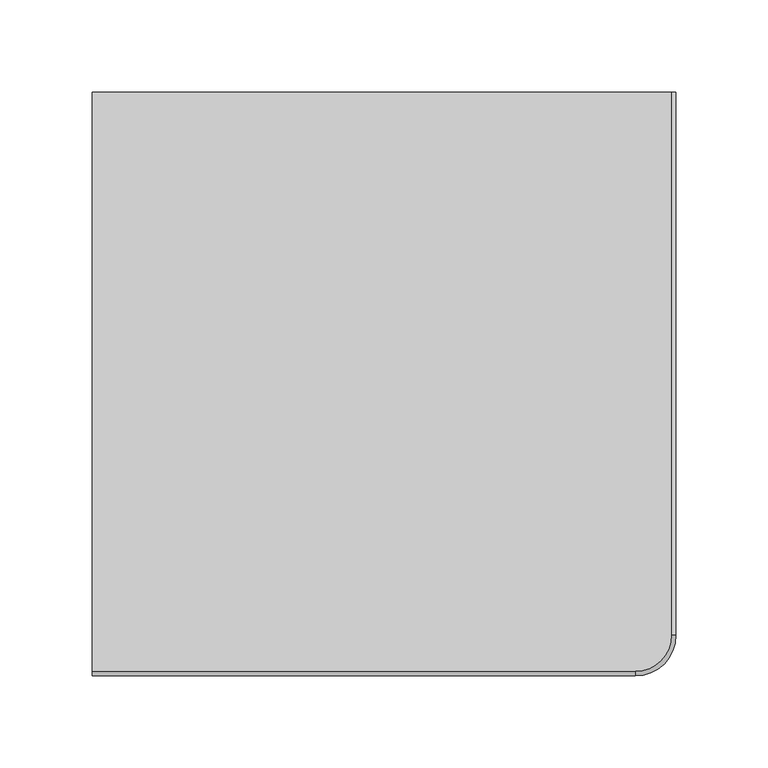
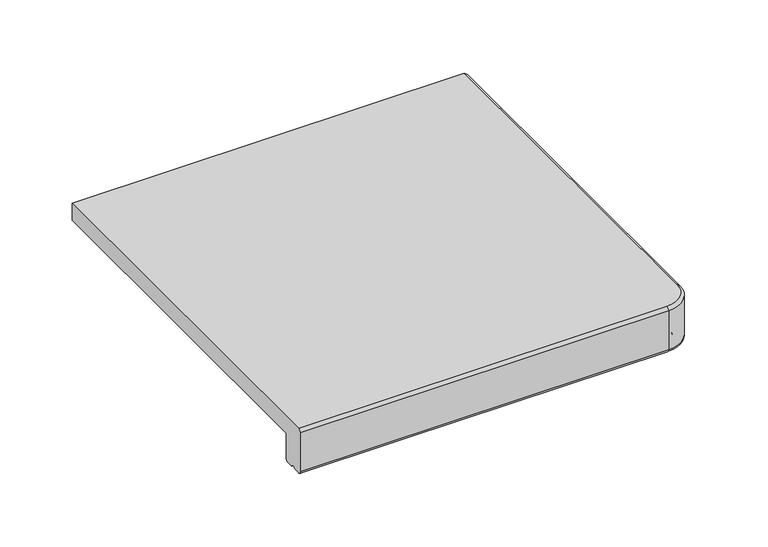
"""IFC4 building model written with IfcOpenShell, lengths in millimetres: proxy geometry, ROSA GRES_DL1 (corte) : Pieza DL1_Serena_Ocra_Anti-Slip."""

from ifc_helpers import new_model, si_unit, point, frame, origin, place, context, project, spatial, polyline, circle_curve, ellipse_curve, trimmed, source, transform, mapped, element, save
from ifc_brep_helpers import plane_surface, cylinder_surface, revolved_surface, advanced_brep


def generic_models_fd3dc37b(model_context):
    return source(origin(), model_context, "Body", "AdvancedBrep", [
        advanced_brep(
        [(0.0, 317.0, 38.0), (0.0, 317.0, 23.2451288), (0.0, 20.0, 23.2451288), (0.0, 20.0, 2.5), (0.0, 17.5, 0.0), (0.0, 11.8617862, 0.0), (0.0, 8.1382138, 0.0), (0.0, 2.5, 0.0), (0.0, 0.0, 2.5), (0.0, 0.0, 35.5), (0.0, 2.5, 38.0), (295.0, 2.5, 38.0), (314.5, 22.0, 38.0), (314.5, 317.0, 38.0), (295.0, 20.0, 2.5), (295.0, 20.0, 23.2451288), (295.0, 17.5, 0.0), (299.5, 22.0, 0.0), (299.5, 317.0, 0.0), (305.1382138, 317.0, 0.0), (305.1382138, 22.0, 0.0), (295.0, 11.8617862, 0.0), (295.0, 8.1382138, 0.0), (308.8617862, 22.0, 0.0), (308.8617862, 317.0, 0.0), (314.5, 317.0, 0.0), (314.5, 22.0, 0.0), (295.0, 2.5, 0.0), (295.0, 0.0, 2.5), (295.0, 0.0, 35.5), (297.0, 22.0, 2.5), (297.0, 22.0, 23.2451288), (317.0, 22.0, 2.5), (317.0, 22.0, 35.5), (317.0, 317.0, 35.5), (317.0, 317.0, 2.5), (297.0, 317.0, 2.5), (297.0, 317.0, 23.2451288)],
        [
            (0, 1),
            (1, 2),
            (2, 3),
            (3, 4, circle_curve(frame((0.0, 17.5, 2.5), z_axis=(-1.0, 0.0, 0.0), x_axis=(0.0, 1.0, 0.0)), 2.5)),
            (4, 5),
            (5, 6, circle_curve(frame((0.0, 10.0, 0.0), z_axis=(1.0, 0.0, 0.0), x_axis=(0.0, 1.0, 0.0)), 1.8617862)),
            (6, 7),
            (7, 8, circle_curve(frame((0.0, 2.5, 2.5), z_axis=(-1.0, 0.0, 0.0), x_axis=(0.0, 1.0, 0.0)), 2.5)),
            (8, 9),
            (9, 10),
            (10, 0),
            (10, 11),
            (11, 12, circle_curve(frame((295.0, 22.0, 38.0), z_axis=(0.0, 0.0, 1.0), x_axis=(0.0, -1.0, 0.0)), 19.5)),
            (12, 13),
            (13, 0),
            (14, 3),
            (2, 15),
            (15, 14),
            (14, 16, circle_curve(frame((295.0, 17.5, 2.5), z_axis=(-1.0, 0.0, 0.0), x_axis=(0.0, 1.0, 0.0)), 2.5)),
            (16, 4),
            (16, 17, circle_curve(frame((295.0, 22.0, 0.0), z_axis=(0.0, 0.0, 1.0), x_axis=(0.0, -1.0, 0.0)), 4.5)),
            (17, 18),
            (18, 19),
            (19, 20),
            (20, 21, circle_curve(frame((295.0, 22.0, 0.0), z_axis=(0.0, 0.0, -1.0), x_axis=(0.0, -1.0, 0.0)), 10.1382138)),
            (21, 5),
            (21, 22, circle_curve(frame((295.0, 10.0, 0.0), z_axis=(1.0, 0.0, 0.0), x_axis=(0.0, 1.0, 0.0)), 1.8617862)),
            (22, 6),
            (22, 23, circle_curve(frame((295.0, 22.0, 0.0), z_axis=(0.0, 0.0, 1.0), x_axis=(0.0, -1.0, 0.0)), 13.8617862)),
            (23, 24),
            (24, 25),
            (25, 26),
            (26, 27, circle_curve(frame((295.0, 22.0, 0.0), z_axis=(0.0, 0.0, -1.0), x_axis=(0.0, -1.0, 0.0)), 19.5)),
            (27, 7),
            (27, 28, circle_curve(frame((295.0, 2.5, 2.5), z_axis=(-1.0, 0.0, 0.0), x_axis=(0.0, 1.0, 0.0)), 2.5)),
            (28, 8),
            (28, 29),
            (29, 9),
            (30, 14, circle_curve(frame((295.0, 22.0, 2.5), z_axis=(0.0, 0.0, -1.0), x_axis=(0.0, -1.0, 0.0)), 2.0)),
            (15, 31, circle_curve(frame((295.0, 22.0, 23.2451288), z_axis=(0.0, 0.0, 1.0), x_axis=(0.0, -1.0, 0.0)), 2.0)),
            (31, 30),
            (30, 17, circle_curve(frame((299.5, 22.0, 2.5), z_axis=(0.0, -1.0, 0.0), x_axis=(-1.0, 0.0, 0.0)), 2.5)),
            (20, 23, circle_curve(frame((307.0, 22.0, 0.0), z_axis=(0.0, 1.0, 0.0), x_axis=(-1.0, 0.0, 0.0)), 1.8617862)),
            (26, 32, circle_curve(frame((314.5, 22.0, 2.5), z_axis=(0.0, -1.0, 0.0), x_axis=(-1.0, 0.0, 0.0)), 2.5)),
            (32, 28, circle_curve(frame((295.0, 22.0, 2.5), z_axis=(0.0, 0.0, -1.0), x_axis=(0.0, -1.0, 0.0)), 22.0)),
            (32, 33),
            (33, 29, circle_curve(frame((295.0, 22.0, 35.5), z_axis=(0.0, 0.0, -1.0), x_axis=(0.0, -1.0, 0.0)), 22.0)),
            (13, 34),
            (34, 35),
            (35, 25, circle_curve(frame((314.5, 317.0, 2.5), z_axis=(0.0, 1.0, 0.0), x_axis=(-1.0, 0.0, 0.0)), 2.5)),
            (24, 19, circle_curve(frame((307.0, 317.0, 0.0), z_axis=(0.0, -1.0, 0.0), x_axis=(-1.0, 0.0, 0.0)), 1.8617862)),
            (18, 36, circle_curve(frame((299.5, 317.0, 2.5), z_axis=(0.0, 1.0, 0.0), x_axis=(-1.0, 0.0, 0.0)), 2.5)),
            (36, 37),
            (37, 1),
            (36, 30),
            (31, 37),
            (35, 32),
            (34, 33),
            (29, 11),
            (33, 12),
        ],
        [
            plane_surface(frame((0.0, 0.0, 0.0), z_axis=(-1.0, 0.0, 0.0), x_axis=(0.0, 0.0, 1.0))),
            plane_surface(frame((0.0, 2.5, 38.0), z_axis=(0.0, 0.0, 1.0), x_axis=(1.0, 0.0, 0.0))),
            plane_surface(frame((0.0, 20.0, 38.0), z_axis=(0.0, 1.0, 0.0), x_axis=(1.0, 0.0, 0.0))),
            cylinder_surface(frame((0.0, 17.5, 2.5), z_axis=(-1.0, 0.0, 0.0), x_axis=(0.0, 1.0, 0.0)), 2.5),
            plane_surface(frame((0.0, 17.5, 0.0), z_axis=(0.0, 0.0, -1.0), x_axis=(1.0, 0.0, 0.0))),
            revolved_surface(polyline([(295.0, 11.861786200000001, 0.0), (0.0, 11.861786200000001, 0.0)]), (0.0, 10.0, 0.0), (1.0, 0.0, 0.0)),
            plane_surface(frame((0.0, 8.1382138, 0.0), z_axis=(0.0, 0.0, -1.0), x_axis=(1.0, 0.0, 0.0))),
            cylinder_surface(frame((0.0, 2.5, 2.5), z_axis=(-1.0, 0.0, 0.0), x_axis=(0.0, 1.0, 0.0)), 2.5),
            plane_surface(frame((0.0, 0.0, 2.5), z_axis=(0.0, -1.0, 0.0), x_axis=(1.0, 0.0, 0.0))),
            revolved_surface(polyline([(295.0, 20.0, 23.2451288), (295.0, 20.0, 2.5)]), (295.0, 22.0, 0.0), (0.0, 0.0, 1.0)),
            revolved_surface(trimmed(ellipse_curve(frame((295.0, 17.5, 2.5), z_axis=(-1.0, 0.0, 0.0), x_axis=(0.0, 1.0, 0.0)), 2.5, 2.5), [point((295.0, 20.0, 2.5))], [point((295.0, 17.5, 0.0))], True, "CARTESIAN"), (295.0, 22.0, 0.0), (0.0, 0.0, 1.0)),
            revolved_surface(trimmed(ellipse_curve(frame((295.0, 10.0, 0.0), z_axis=(1.0, 0.0, 0.0), x_axis=(0.0, 1.0, 0.0)), 1.8617862, 1.8617862), [point((295.0, 11.8617862, 0.0))], [point((295.0, 8.1382138, 0.0))], True, "CARTESIAN"), (295.0, 22.0, 0.0), (0.0, 0.0, 1.0)),
            revolved_surface(trimmed(ellipse_curve(frame((295.0, 2.5, 2.5), z_axis=(-1.0, 0.0, 0.0), x_axis=(0.0, 1.0, 0.0)), 2.5, 2.5), [point((295.0, 2.5, 0.0))], [point((295.0, 0.0, 2.5))], True, "CARTESIAN"), (295.0, 22.0, 0.0), (0.0, 0.0, 1.0)),
            cylinder_surface(frame((295.0, 22.0, 0.0), z_axis=(0.0, 0.0, 1.0), x_axis=(0.0, -1.0, 0.0)), 22.0),
            plane_surface(frame((317.0, 317.0, 0.0), z_axis=(0.0, 1.0, 0.0), x_axis=(0.0, 0.0, 1.0))),
            plane_surface(frame((297.0, 22.0, 38.0), z_axis=(-1.0, 0.0, 0.0), x_axis=(0.0, 1.0, 0.0))),
            cylinder_surface(frame((299.5, 22.0, 2.5), z_axis=(0.0, -1.0, 0.0), x_axis=(-1.0, 0.0, 0.0)), 2.5),
            revolved_surface(polyline([(305.1382138, 317.0, 0.0), (305.1382138, 22.0, 0.0)]), (307.0, 22.0, 0.0), (0.0, 1.0, 0.0)),
            cylinder_surface(frame((314.5, 22.0, 2.5), z_axis=(0.0, -1.0, 0.0), x_axis=(-1.0, 0.0, 0.0)), 2.5),
            plane_surface(frame((317.0, 22.0, 2.5), z_axis=(1.0, 0.0, 0.0), x_axis=(0.0, 1.0, 0.0))),
            plane_surface(frame((297.0, 20.0, 23.2451288), z_axis=(0.0, 0.0, -1.0), x_axis=(-1.0, 0.0, 0.0))),
            plane_surface(frame((0.0, 0.0, 35.5), z_axis=(0.0, -0.7071067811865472, 0.7071067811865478), x_axis=(1.0, 0.0, 0.0))),
            revolved_surface(polyline([(295.0, 0.0, 35.5), (295.0, 2.5, 38.0)]), (295.0, 22.0, 0.0), (0.0, 0.0, 1.0)),
            plane_surface(frame((317.0, 22.0, 35.5), z_axis=(0.7071067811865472, 0.0, 0.7071067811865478), x_axis=(0.0, 1.0, 0.0))),
        ],
        [
            (0, [[1, 2, 3, 4, 5, 6, 7, 8, 9, 10, 11]]),
            (1, [[-11, 12, 13, 14, 15]]),
            (2, [[16, -3, 17, 18]]),
            (3, [[-4, -16, 19, 20]]),
            (4, [[-5, -20, 21, 22, 23, 24, 25, 26]]),
            (5, [[-6, -26, 27, 28]]),
            (6, [[-7, -28, 29, 30, 31, 32, 33, 34]]),
            (7, [[-8, -34, 35, 36]]),
            (8, [[-9, -36, 37, 38]]),
            (9, [[39, -18, 40, 41]]),
            (10, [[-19, -39, 42, -21]]),
            (11, [[-25, 43, -29, -27]]),
            (12, [[-33, 44, 45, -35]]),
            (13, [[-37, -45, 46, 47]]),
            (14, [[-15, 48, 49, 50, -31, 51, -23, 52, 53, 54, -1]]),
            (15, [[55, -41, 56, -53]]),
            (16, [[-22, -42, -55, -52]]),
            (17, [[-24, -51, -30, -43]]),
            (18, [[-32, -50, 57, -44]]),
            (19, [[-46, -57, -49, 58]]),
            (20, [[-2, -54, -56, -40, -17]]),
            (21, [[-10, -38, 59, -12]]),
            (22, [[-13, -59, -47, 60]]),
            (23, [[-14, -60, -58, -48]]),
        ],
    ),
    ])


if __name__ == "__main__":
    model = new_model("IFC4")
    model_context = context("Model", 3, world=origin())
    ifc_project = project(units=[si_unit("LENGTHUNIT", "METRE", prefix="MILLI")], contexts=[model_context])
    site = spatial("IfcSite", under=ifc_project)
    building = spatial("IfcBuilding", under=site)
    placement = place(None, origin())
    generic_models_shape = generic_models_fd3dc37b(model_context)
    element("IfcBuildingElementProxy", 1, Name="ROSA GRES_DL1 (corte) : Pieza DL1_Serena_Ocra_Anti-Slip", ObjectType="ROSA GRES_DL1 (corte) : Pieza DL1_Serena_Ocra_Anti-Slip", at=placement, inside=building, context=model_context, shape_type="MappedRepresentation", body=[
        mapped(generic_models_shape, transform((0.0, 0.0, 0.0), x_axis=(1.0, 0.0, 0.0), y_axis=(0.0, 1.0, 0.0), z_axis=(0.0, 0.0, 1.0))),
    ])
    save(model, "model.ifc")
